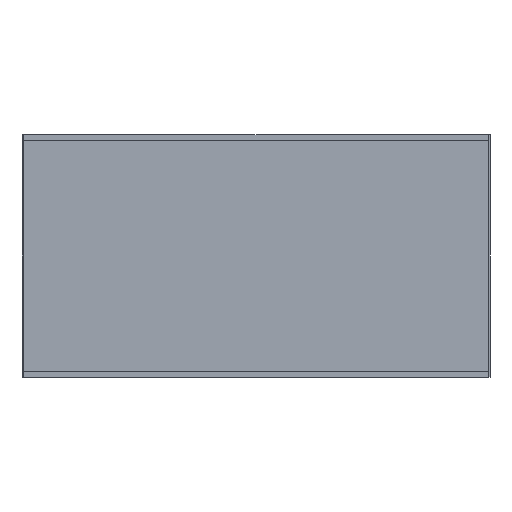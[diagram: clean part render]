
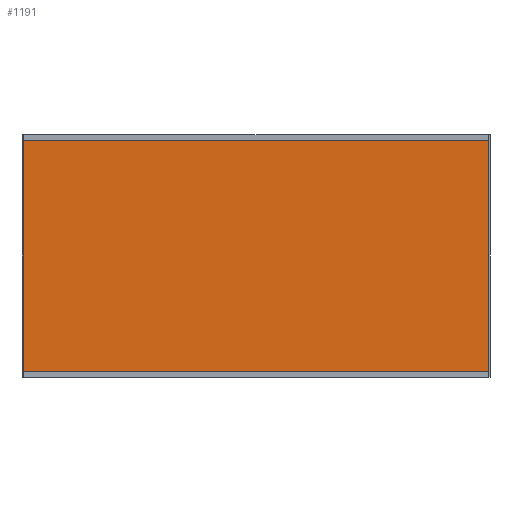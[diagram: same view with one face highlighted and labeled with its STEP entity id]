
A CAD part, front view. The second image highlights one B-rep face of the part: STEP entity #1191.
In plain terms, the highlighted planar face has unit normal (0, -1, 0).
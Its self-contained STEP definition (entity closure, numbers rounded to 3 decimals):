
#66=PLANE('',#1293);
#129=FACE_OUTER_BOUND('',#199,.T.);
#199=EDGE_LOOP('',(#1006,#1007,#1008,#1009));
#319=LINE('',#1857,#457);
#322=LINE('',#1863,#460);
#323=LINE('',#1865,#461);
#324=LINE('',#1866,#462);
#457=VECTOR('',#1539,10.);
#460=VECTOR('',#1544,10.);
#461=VECTOR('',#1545,10.);
#462=VECTOR('',#1546,10.);
#589=VERTEX_POINT('',#1854);
#590=VERTEX_POINT('',#1856);
#592=VERTEX_POINT('',#1862);
#593=VERTEX_POINT('',#1864);
#731=EDGE_CURVE('',#589,#590,#319,.T.);
#734=EDGE_CURVE('',#592,#589,#322,.T.);
#735=EDGE_CURVE('',#593,#592,#323,.T.);
#736=EDGE_CURVE('',#590,#593,#324,.T.);
#1006=ORIENTED_EDGE('',*,*,#734,.F.);
#1007=ORIENTED_EDGE('',*,*,#735,.F.);
#1008=ORIENTED_EDGE('',*,*,#736,.F.);
#1009=ORIENTED_EDGE('',*,*,#731,.F.);
#1191=ADVANCED_FACE('',(#129),#66,.T.);
#1293=AXIS2_PLACEMENT_3D('',#1861,#1542,#1543);
#1539=DIRECTION('',(0.,0.,1.));
#1542=DIRECTION('center_axis',(0.,-1.,0.));
#1543=DIRECTION('ref_axis',(0.,0.,-1.));
#1544=DIRECTION('',(-1.,0.,0.));
#1545=DIRECTION('',(0.,0.,-1.));
#1546=DIRECTION('',(1.,0.,0.));
#1854=CARTESIAN_POINT('',(-673.,-30.75,16.));
#1856=CARTESIAN_POINT('',(-673.,-30.75,683.));
#1857=CARTESIAN_POINT('',(-673.,-30.75,683.));
#1861=CARTESIAN_POINT('Origin',(0.,-30.75,683.));
#1862=CARTESIAN_POINT('',(673.,-30.75,16.));
#1863=CARTESIAN_POINT('',(0.,-30.75,16.));
#1864=CARTESIAN_POINT('',(673.,-30.75,683.));
#1865=CARTESIAN_POINT('',(673.,-30.75,683.));
#1866=CARTESIAN_POINT('',(0.,-30.75,683.));
